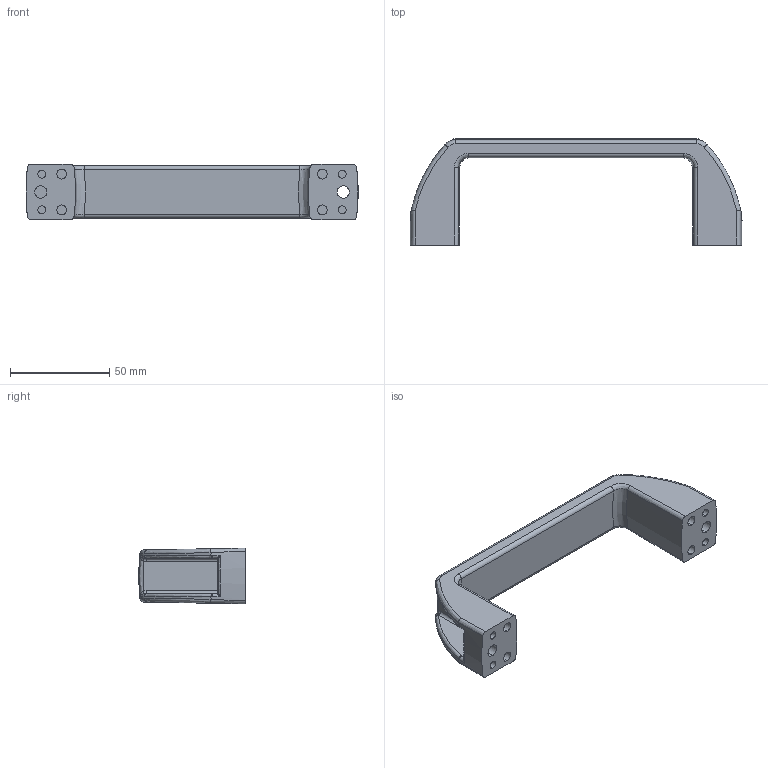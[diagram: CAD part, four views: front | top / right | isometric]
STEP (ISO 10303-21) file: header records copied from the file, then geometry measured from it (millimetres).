
FILE_DESCRIPTION (( 'STEP AP214' ), '1' );
FILE_NAME ('4.04.spbh.STEP', '2015-05-30T10:11:59', ( '' ), ( '' ), 'SwSTEP 2.0', 'SolidWorks 2015', '' );
FILE_SCHEMA (( 'AUTOMOTIVE_DESIGN' ));
Length unit declared in the file: millimetre
Products named in the file (1): 4.04.spbh
Bounding box: 166.88 x 53.43 x 28 mm (x, y, z)
Volume: 61240.9 mm3; surface area: 23102.7 mm2
Topology: 1 solids, 1 shells, 159 faces, 378 edges, 222 vertices
Faces by surface type: bspline 69, cylinder 52, plane 38
Entity records: 7039 total; most frequent: CARTESIAN_POINT 3895, ORIENTED_EDGE 728, DIRECTION 536, EDGE_CURVE 364, VERTEX_POINT 218, AXIS2_PLACEMENT_3D 215, EDGE_LOOP 172, FACE_OUTER_BOUND 158
